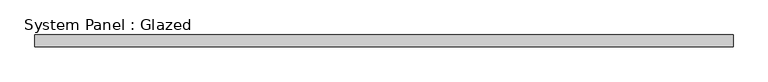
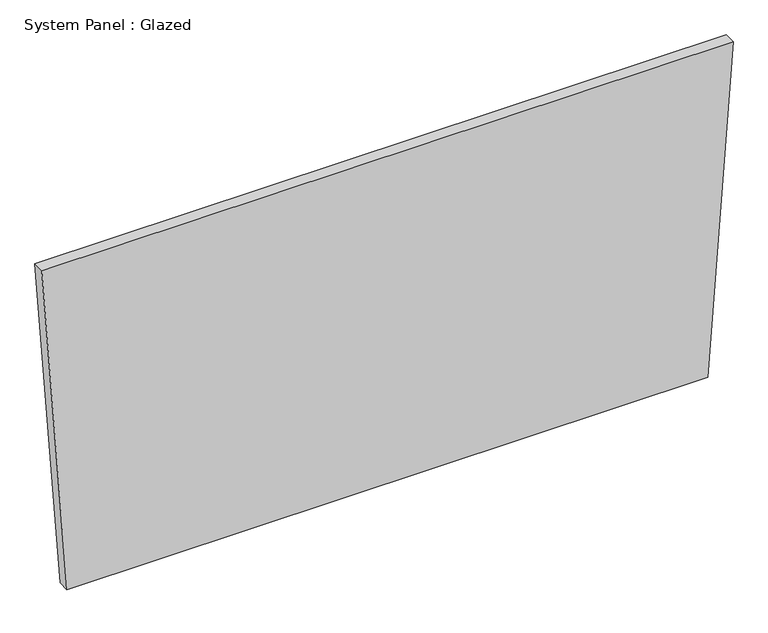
"""IFC4 building model written with IfcOpenShell, lengths in millimetres: plate geometry, System Panel : Glazed."""

from ifc_helpers import new_model, si_unit, frame, origin, place, context, project, spatial, polyline, outline, extrude, source, transform, mapped, element, save


def system_panel_glazed_01ebcfbc(model_context):
    return source(origin(), model_context, "Body", "SweptSolid", [
        extrude(outline(polyline([(0.0005851, -690.5899305), (0.0, 690.5899328), (745.574424, 744.9172927), (745.5750413, -744.9172927), (0.0005851, -690.5899305)])), frame((0.0, 19.05, 0.0), z_axis=(0.0, 1.0, 0.0), x_axis=(0.0, 0.0, 1.0)), (0.0, 0.0, 1.0), 25.4),
    ])


if __name__ == "__main__":
    model = new_model("IFC4")
    model_context = context("Model", 3, world=origin())
    ifc_project = project(units=[si_unit("LENGTHUNIT", "METRE", prefix="MILLI")], contexts=[model_context])
    site = spatial("IfcSite", under=ifc_project)
    building = spatial("IfcBuilding", under=site)
    placement = place(None, origin())
    system_panel_glazed_shape = system_panel_glazed_01ebcfbc(model_context)
    element("IfcPlate", 1, ObjectType="System Panel : Glazed", at=placement, inside=building, context=model_context, shape_type="MappedRepresentation", body=[
        mapped(system_panel_glazed_shape, transform((0.0, 0.0, 0.0), x_axis=(1.0, 0.0, 0.0), y_axis=(0.0, 1.0, 0.0), z_axis=(0.0, 0.0, 1.0))),
    ])
    save(model, "model.ifc")
